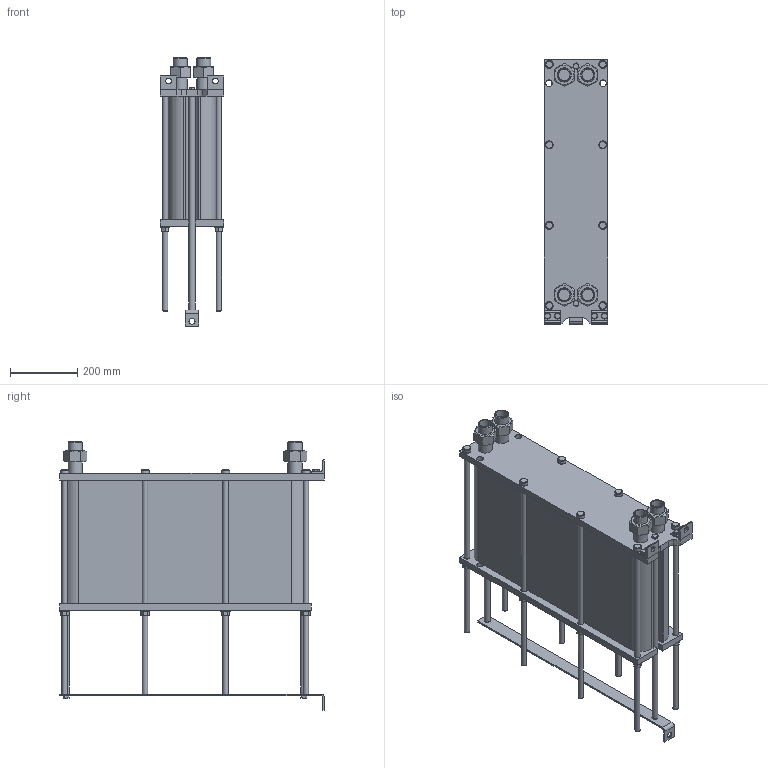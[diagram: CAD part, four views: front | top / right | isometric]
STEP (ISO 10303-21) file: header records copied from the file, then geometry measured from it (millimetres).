
FILE_DESCRIPTION(/* description */ (''),/* implementation_level */ '2;1');
FILE_NAME(/* name */ 'C:\Users\zhuro\Desktop\ENCO\TO\ЭН-008\ЭН-0,5-008-119-1.stp',/* time_stamp */ '2022-06-06T10:56:45+03:00',/* author */ ('zhuro'),/* organization */ (''),/* preprocessor_version */ 'ST-DEVELOPER v18.1',/* originating_system */ 'Autodesk Inventor 2022',/* authorisation */ '');
FILE_SCHEMA (('AUTOMOTIVE_DESIGN { 1 0 10303 214 3 1 1 }'));
Length unit declared in the file: millimetre
Products named in the file (1): ЭН-0,5-008-119-1
Bounding box: 190 x 790 x 800.2 mm (x, y, z)
Volume: 44655244.2 mm3; surface area: 2182242.6 mm2
Topology: 40 solids, 40 shells, 428 faces, 924 edges, 606 vertices
Faces by surface type: plane 273, cylinder 109, cone 40, torus 6
Full cylindrical faces by diameter (mm): 12 x6, 14 x2, 16 x20, 17 x8, 18 x19, 20 x5, 24 x8, 28 x8, 34.3 x8, 42.3 x8
Entity records: 15843 total; most frequent: CARTESIAN_POINT 5991, DIRECTION 1984, ORIENTED_EDGE 1848, EDGE_CURVE 924, AXIS2_PLACEMENT_3D 715, VERTEX_POINT 606, LINE 554, VECTOR 554
